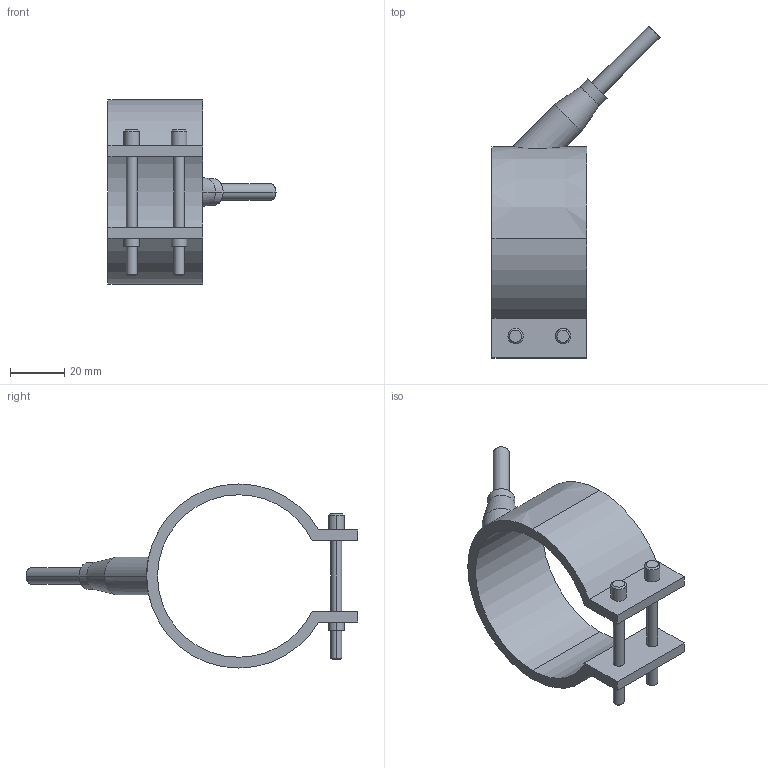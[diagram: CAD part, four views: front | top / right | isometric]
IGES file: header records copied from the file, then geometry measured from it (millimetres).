
Start section: START RECORD GO HERE.
Global section: file name: 29060035.igs; native system: DASSAULT SYSTEMES CATIA V5 R20 - www.3ds.com; preprocessor: CATIA Version 5 Release 20 ; author: Utente; organization: NB04-ASUS; date: 20210327.105430; units: millimetre
Bounding box: 62.05 x 122.55 x 68 mm (x, y, z)
Surface area: 18824.2 mm2 (no closed solid volume)
Topology: 0 solids, 0 shells, 54 faces, 252 edges, 252 vertices
Faces by surface type: revolution 38, plane 16
